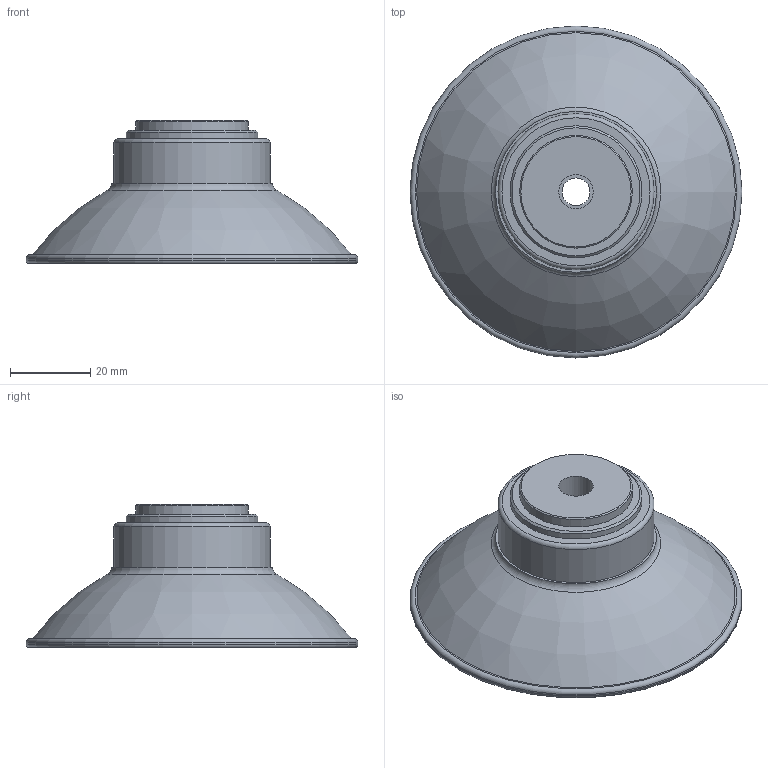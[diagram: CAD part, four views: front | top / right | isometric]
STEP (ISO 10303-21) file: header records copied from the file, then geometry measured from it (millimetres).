
FILE_DESCRIPTION( ( 'Unknown' ), '1' );
FILE_NAME( 'D:/弥龋覆(冠固急)/Smart Cup/寇何侩-唱荤魂TYPE/FCF80-18F.stp', 'Unknown', ( 'Unknown' ), ( 'Unknown' ), 'PSStep 10.0', 'Unknown', ' ' );
FILE_SCHEMA( ( 'AUTOMOTIVE_DESIGN { 1 0 10303 214 1 1 1 1 }' ) );
Length unit declared in the file: millimetre
Products named in the file (3): Assem1; FCF80; VDF-FCF-18F
Bounding box: 82.5 x 82.5 x 35.61 mm (x, y, z)
Volume: 64350.7 mm3; surface area: 47524.6 mm2
Topology: 4 solids, 4 shells, 112 faces, 190 edges, 112 vertices
Faces by surface type: cylinder 36, plane 34, cone 22, torus 14, bspline 6
Full cylindrical faces by diameter (mm): 6.928 x2, 7.5 x2, 8.566 x2, 9.5 x2, 16 x4, 16.8 x8, 28 x2, 30.8 x4, 32.8 x6, 38.8 x2, 82.5 x2
Entity records: 1701 total; most frequent: CARTESIAN_POINT 252, DIRECTION 224, AXIS2_PLACEMENT_3D 112, EDGE_LOOP 112, ORIENTED_EDGE 112, FACE_OUTER_BOUND 84, STYLED_ITEM 56, PRESENTATION_STYLE_ASSIGNMENT 56
